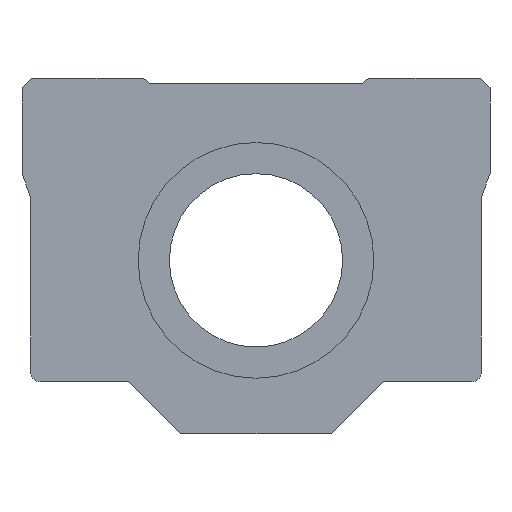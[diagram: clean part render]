
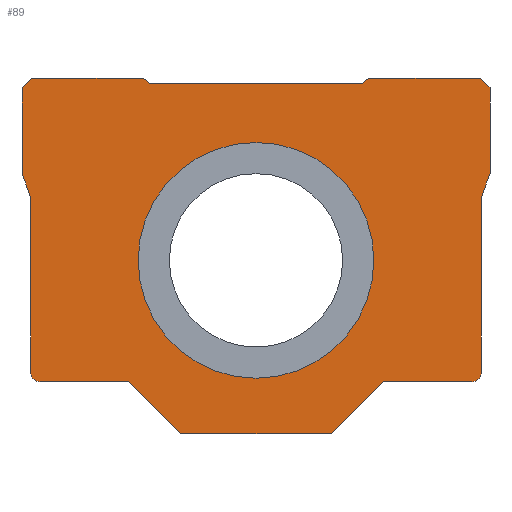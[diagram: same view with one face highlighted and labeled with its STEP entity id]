
A CAD part, left-side view. The second image highlights one B-rep face of the part: STEP entity #89.
In plain terms, the highlighted planar face has unit normal (-1, 0, 0).
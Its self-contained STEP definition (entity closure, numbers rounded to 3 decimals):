
#89 = ADVANCED_FACE( '', ( #207, #208 ), #209, .F. );
#207 = FACE_BOUND( '', #358, .T. );
#208 = FACE_OUTER_BOUND( '', #359, .T. );
#209 = PLANE( '', #360 );
#358 = EDGE_LOOP( '', ( #550 ) );
#359 = EDGE_LOOP( '', ( #551, #552, #553, #554, #555, #556, #557, #558, #559, #560, #561, #562, #563, #564, #565, #566, #567, #568, #569, #570 ) );
#360 = AXIS2_PLACEMENT_3D( '', #571, #572, #573 );
#550 = ORIENTED_EDGE( '', *, *, #796, .T. );
#551 = ORIENTED_EDGE( '', *, *, #819, .F. );
#552 = ORIENTED_EDGE( '', *, *, #824, .F. );
#553 = ORIENTED_EDGE( '', *, *, #825, .F. );
#554 = ORIENTED_EDGE( '', *, *, #826, .F. );
#555 = ORIENTED_EDGE( '', *, *, #827, .F. );
#556 = ORIENTED_EDGE( '', *, *, #828, .F. );
#557 = ORIENTED_EDGE( '', *, *, #829, .F. );
#558 = ORIENTED_EDGE( '', *, *, #830, .F. );
#559 = ORIENTED_EDGE( '', *, *, #831, .F. );
#560 = ORIENTED_EDGE( '', *, *, #793, .F. );
#561 = ORIENTED_EDGE( '', *, *, #785, .F. );
#562 = ORIENTED_EDGE( '', *, *, #832, .T. );
#563 = ORIENTED_EDGE( '', *, *, #833, .T. );
#564 = ORIENTED_EDGE( '', *, *, #834, .T. );
#565 = ORIENTED_EDGE( '', *, *, #835, .F. );
#566 = ORIENTED_EDGE( '', *, *, #836, .F. );
#567 = ORIENTED_EDGE( '', *, *, #779, .F. );
#568 = ORIENTED_EDGE( '', *, *, #804, .F. );
#569 = ORIENTED_EDGE( '', *, *, #800, .F. );
#570 = ORIENTED_EDGE( '', *, *, #813, .F. );
#571 = CARTESIAN_POINT( '', ( 0., 0., 0. ) );
#572 = DIRECTION( '', ( 1., 0., 0. ) );
#573 = DIRECTION( '', ( 0., 1., 0. ) );
#779 = EDGE_CURVE( '', #903, #905, #906, .T. );
#785 = EDGE_CURVE( '', #914, #916, #917, .T. );
#793 = EDGE_CURVE( '', #916, #929, #930, .T. );
#796 = EDGE_CURVE( '', #933, #933, #934, .T. );
#800 = EDGE_CURVE( '', #939, #941, #942, .T. );
#804 = EDGE_CURVE( '', #941, #903, #946, .T. );
#813 = EDGE_CURVE( '', #958, #939, #960, .T. );
#819 = EDGE_CURVE( '', #968, #958, #970, .T. );
#824 = EDGE_CURVE( '', #977, #968, #978, .T. );
#825 = EDGE_CURVE( '', #979, #977, #980, .T. );
#826 = EDGE_CURVE( '', #981, #979, #982, .T. );
#827 = EDGE_CURVE( '', #983, #981, #984, .T. );
#828 = EDGE_CURVE( '', #985, #983, #986, .T. );
#829 = EDGE_CURVE( '', #987, #985, #988, .T. );
#830 = EDGE_CURVE( '', #989, #987, #990, .T. );
#831 = EDGE_CURVE( '', #929, #989, #991, .T. );
#832 = EDGE_CURVE( '', #914, #992, #993, .T. );
#833 = EDGE_CURVE( '', #992, #994, #995, .T. );
#834 = EDGE_CURVE( '', #994, #996, #997, .T. );
#835 = EDGE_CURVE( '', #998, #996, #999, .T. );
#836 = EDGE_CURVE( '', #905, #998, #1000, .T. );
#903 = VERTEX_POINT( '', #1087 );
#905 = VERTEX_POINT( '', #1090 );
#906 = LINE( '', #1091, #1092 );
#914 = VERTEX_POINT( '', #1101 );
#916 = VERTEX_POINT( '', #1104 );
#917 = LINE( '', #1105, #1106 );
#929 = VERTEX_POINT( '', #1121 );
#930 = LINE( '', #1122, #1123 );
#933 = VERTEX_POINT( '', #1127 );
#934 = CIRCLE( '', #1128, 13.6 );
#939 = VERTEX_POINT( '', #1134 );
#941 = VERTEX_POINT( '', #1137 );
#942 = LINE( '', #1138, #1139 );
#946 = LINE( '', #1145, #1146 );
#958 = VERTEX_POINT( '', #1158 );
#960 = CIRCLE( '', #1161, 1.1 );
#968 = VERTEX_POINT( '', #1170 );
#970 = LINE( '', #1173, #1174 );
#977 = VERTEX_POINT( '', #1181 );
#978 = LINE( '', #1182, #1183 );
#979 = VERTEX_POINT( '', #1184 );
#980 = LINE( '', #1185, #1186 );
#981 = VERTEX_POINT( '', #1187 );
#982 = LINE( '', #1188, #1189 );
#983 = VERTEX_POINT( '', #1190 );
#984 = LINE( '', #1191, #1192 );
#985 = VERTEX_POINT( '', #1193 );
#986 = CIRCLE( '', #1194, 1.1 );
#987 = VERTEX_POINT( '', #1195 );
#988 = LINE( '', #1196, #1197 );
#989 = VERTEX_POINT( '', #1198 );
#990 = LINE( '', #1199, #1200 );
#991 = LINE( '', #1201, #1202 );
#992 = VERTEX_POINT( '', #1203 );
#993 = LINE( '', #1204, #1205 );
#994 = VERTEX_POINT( '', #1206 );
#995 = LINE( '', #1207, #1208 );
#996 = VERTEX_POINT( '', #1209 );
#997 = LINE( '', #1210, #1211 );
#998 = VERTEX_POINT( '', #1212 );
#999 = LINE( '', #1213, #1214 );
#1000 = LINE( '', #1215, #1216 );
#1087 = CARTESIAN_POINT( '', ( 0., 27., 10. ) );
#1090 = CARTESIAN_POINT( '', ( 0., 27., 19.9 ) );
#1091 = CARTESIAN_POINT( '', ( 0., 27., 10. ) );
#1092 = VECTOR( '', #1324, 1000. );
#1101 = CARTESIAN_POINT( '', ( 0., -13., 21. ) );
#1104 = CARTESIAN_POINT( '', ( 0., -25.9, 21. ) );
#1105 = CARTESIAN_POINT( '', ( 0., 25.9, 21. ) );
#1106 = VECTOR( '', #1333, 1000. );
#1121 = CARTESIAN_POINT( '', ( 0., -27., 19.9 ) );
#1122 = CARTESIAN_POINT( '', ( 0., -25.9, 21. ) );
#1123 = VECTOR( '', #1343, 1000. );
#1127 = CARTESIAN_POINT( '', ( 0., 13.6, 0. ) );
#1128 = AXIS2_PLACEMENT_3D( '', #1345, #1346, #1347 );
#1134 = CARTESIAN_POINT( '', ( 0., 26., -12.9 ) );
#1137 = CARTESIAN_POINT( '', ( 0., 26., 7.253 ) );
#1138 = CARTESIAN_POINT( '', ( 0., 26., -13.9 ) );
#1139 = VECTOR( '', #1350, 1000. );
#1145 = CARTESIAN_POINT( '', ( 0., 26., 7.253 ) );
#1146 = VECTOR( '', #1353, 1000. );
#1158 = CARTESIAN_POINT( '', ( 0., 24.9, -14. ) );
#1161 = AXIS2_PLACEMENT_3D( '', #1367, #1368, #1369 );
#1170 = CARTESIAN_POINT( '', ( 0., 14.697, -14. ) );
#1173 = CARTESIAN_POINT( '', ( 0., 14.697, -14. ) );
#1174 = VECTOR( '', #1378, 1000. );
#1181 = CARTESIAN_POINT( '', ( 0., 8.697, -20. ) );
#1182 = CARTESIAN_POINT( '', ( 0., 8.697, -20. ) );
#1183 = VECTOR( '', #1385, 1000. );
#1184 = CARTESIAN_POINT( '', ( 0., -8.697, -20. ) );
#1185 = CARTESIAN_POINT( '', ( 0., -8.697, -20. ) );
#1186 = VECTOR( '', #1386, 1000. );
#1187 = CARTESIAN_POINT( '', ( 0., -14.697, -14. ) );
#1188 = CARTESIAN_POINT( '', ( 0., -14.697, -14. ) );
#1189 = VECTOR( '', #1387, 1000. );
#1190 = CARTESIAN_POINT( '', ( 0., -24.9, -14. ) );
#1191 = CARTESIAN_POINT( '', ( 0., -24.9, -14. ) );
#1192 = VECTOR( '', #1388, 1000. );
#1193 = CARTESIAN_POINT( '', ( 0., -26., -12.9 ) );
#1194 = AXIS2_PLACEMENT_3D( '', #1389, #1390, #1391 );
#1195 = CARTESIAN_POINT( '', ( 0., -26., 7.253 ) );
#1196 = CARTESIAN_POINT( '', ( 0., -26., 7.253 ) );
#1197 = VECTOR( '', #1392, 1000. );
#1198 = CARTESIAN_POINT( '', ( 0., -27., 10. ) );
#1199 = CARTESIAN_POINT( '', ( 0., -27., 10. ) );
#1200 = VECTOR( '', #1393, 1000. );
#1201 = CARTESIAN_POINT( '', ( 0., -27., 19.9 ) );
#1202 = VECTOR( '', #1394, 1000. );
#1203 = CARTESIAN_POINT( '', ( 0., -12.3, 20.45 ) );
#1204 = CARTESIAN_POINT( '', ( 0., -3.53, 13.559 ) );
#1205 = VECTOR( '', #1395, 1000. );
#1206 = CARTESIAN_POINT( '', ( 0., 12.3, 20.45 ) );
#1207 = CARTESIAN_POINT( '', ( 0., 6.15, 20.45 ) );
#1208 = VECTOR( '', #1396, 1000. );
#1209 = CARTESIAN_POINT( '', ( 0., 13., 21. ) );
#1210 = CARTESIAN_POINT( '', ( 0., 3.88, 13.834 ) );
#1211 = VECTOR( '', #1397, 1000. );
#1212 = CARTESIAN_POINT( '', ( 0., 25.9, 21. ) );
#1213 = CARTESIAN_POINT( '', ( 0., 25.9, 21. ) );
#1214 = VECTOR( '', #1398, 1000. );
#1215 = CARTESIAN_POINT( '', ( 0., 27., 19.9 ) );
#1216 = VECTOR( '', #1399, 1000. );
#1324 = DIRECTION( '', ( 0., 0., 1. ) );
#1333 = DIRECTION( '', ( 0., -1., 0. ) );
#1343 = DIRECTION( '', ( 0., -0.707, -0.707 ) );
#1345 = CARTESIAN_POINT( '', ( 0., 0., 0. ) );
#1346 = DIRECTION( '', ( 1., 0., 0. ) );
#1347 = DIRECTION( '', ( 0., 1., 0. ) );
#1350 = DIRECTION( '', ( 0., 0., 1. ) );
#1353 = DIRECTION( '', ( 0., 0.342, 0.94 ) );
#1367 = CARTESIAN_POINT( '', ( 0., 24.9, -12.9 ) );
#1368 = DIRECTION( '', ( 1., 0., 0. ) );
#1369 = DIRECTION( '', ( 0., 0., -1. ) );
#1378 = DIRECTION( '', ( 0., 1., 0. ) );
#1385 = DIRECTION( '', ( 0., 0.707, 0.707 ) );
#1386 = DIRECTION( '', ( 0., 1., 0. ) );
#1387 = DIRECTION( '', ( 0., 0.707, -0.707 ) );
#1388 = DIRECTION( '', ( 0., 1., 0. ) );
#1389 = CARTESIAN_POINT( '', ( 0., -24.9, -12.9 ) );
#1390 = DIRECTION( '', ( 1., 0., 0. ) );
#1391 = DIRECTION( '', ( 0., -1., 0. ) );
#1392 = DIRECTION( '', ( 0., 0., -1. ) );
#1393 = DIRECTION( '', ( 0., 0.342, -0.94 ) );
#1394 = DIRECTION( '', ( 0., 0., -1. ) );
#1395 = DIRECTION( '', ( 0., 0.786, -0.618 ) );
#1396 = DIRECTION( '', ( 0., 1., 0. ) );
#1397 = DIRECTION( '', ( 0., 0.786, 0.618 ) );
#1398 = DIRECTION( '', ( 0., -1., 0. ) );
#1399 = DIRECTION( '', ( 0., -0.707, 0.707 ) );
